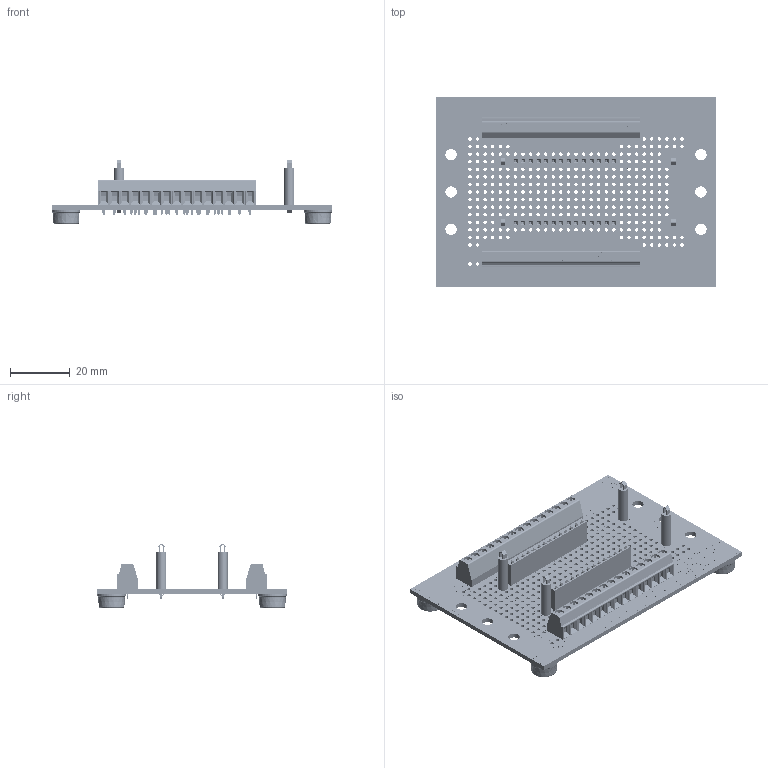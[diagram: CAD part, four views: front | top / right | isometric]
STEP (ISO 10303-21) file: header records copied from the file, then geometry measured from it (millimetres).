
FILE_DESCRIPTION (( 'STEP AP214' ), '1' );
FILE_NAME ('rdbkmkr1-ft_rev_b.step', '2022-08-16T12:57:24', ( '' ), ( '' ), 'SwSTEP 2.0', 'SolidWorks 2018', '' );
FILE_SCHEMA (( 'AUTOMOTIVE_DESIGN' ));
Length unit declared in the file: inch
Products named in the file (3): brk_arduino_mkr; rdbkmkr1-ft_rev_b; RubberFoot_round
Assembly tree (5 placements, depth 2):
  rdbkmkr1-ft_rev_b
    brk_arduino_mkr
    RubberFoot_round  x4
Bounding box: 93.98 x 63.5 x 21.55 mm (x, y, z)
Volume: 16888.9 mm3; surface area: 25554.8 mm2
Topology: 458 solids, 458 shells, 10344 faces, 27358 edges, 18096 vertices
Faces by surface type: plane 6693, bspline 2217, cylinder 1410, torus 16, cone 8
Entity records: 510934 total; most frequent: CARTESIAN_POINT 183413, ORIENTED_EDGE 54608, DIRECTION 41950, EDGE_CURVE 27304, VECTOR 19744, LINE 19744, VERTEX_POINT 18066, EDGE_LOOP 11766
